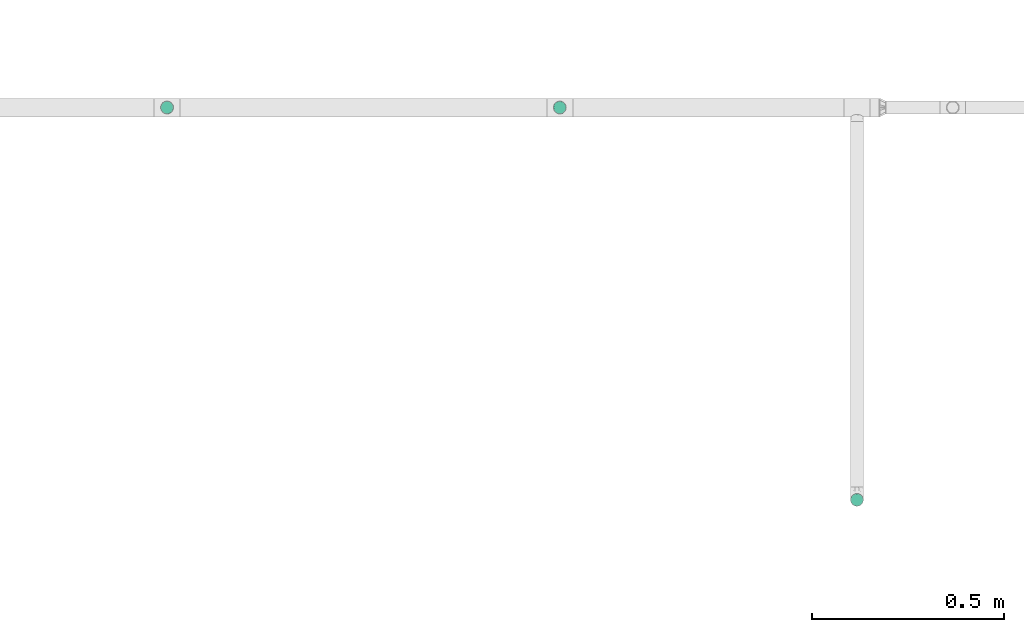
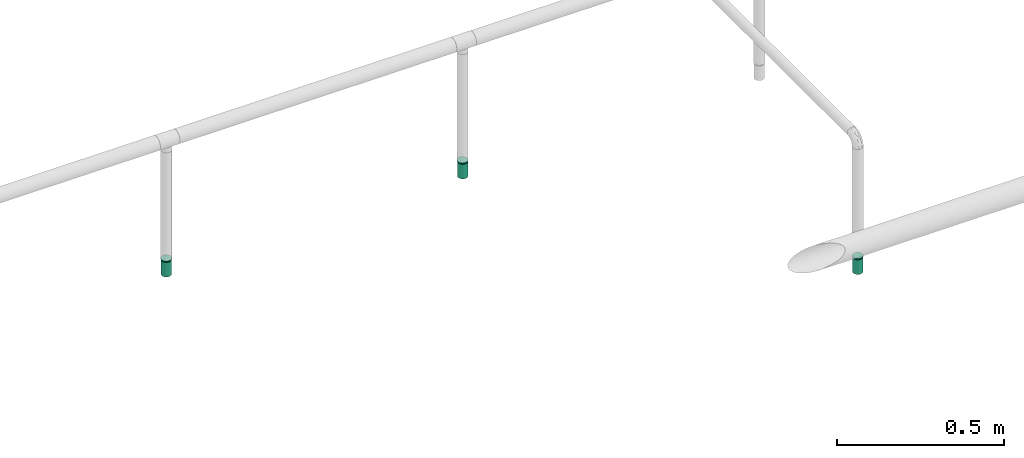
# One storey, part 17 of 45: 3 flow fittings, 3 flow terminals.
"""IFC2X3 building model written with IfcOpenShell, lengths in millimetres."""

from ifc_helpers import new_model, entity, si_unit, converted_unit, derived_unit, direction, frame, origin_with_axes, place, context, subcontext, project, spatial, open_shell, surface_model, source, transform, mapped, type_object, element, save


model = new_model("IFC2X3")

# Units and contexts
model_context = context("Model", 3, precision=0.01, world=frame((0.0, 4.29681676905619e-09, 0.0)), true_north=direction((4.01073788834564e-13, 1.0)))
plan_context = context("Plan", 3, precision=0.01, world=frame((0.0, 4.29681676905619e-09, 0.0)), true_north=direction((4.01073788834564e-13, 1.0)))
body_context = subcontext(model_context, "Body", "Model", "MODEL_VIEW")
ifc_project = project(units=[converted_unit("PLANEANGLEUNIT", "DEGREE", entity("IfcPositiveLengthMeasure", 0.0174532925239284), si_unit("PLANEANGLEUNIT", "RADIAN"), dimensions=[0, 0, 0, 0, 0, 0, 0]), si_unit("AREAUNIT", "SQUARE_METRE"), si_unit("LENGTHUNIT", "METRE", prefix="MILLI"), si_unit("MASSUNIT", "GRAM", prefix="KILO"), si_unit("POWERUNIT", "WATT"), si_unit("PRESSUREUNIT", "PASCAL", prefix="KILO"), si_unit("FORCEUNIT", "NEWTON", prefix="KILO"), si_unit("ELECTRICVOLTAGEUNIT", "VOLT"), si_unit("ELECTRICCURRENTUNIT", "AMPERE"), si_unit("THERMODYNAMICTEMPERATUREUNIT", "DEGREE_CELSIUS"), si_unit("TIMEUNIT", "SECOND"), si_unit("VOLUMEUNIT", "CUBIC_METRE"), derived_unit("LINEARVELOCITYUNIT", [(si_unit("LENGTHUNIT", "METRE"), 1), (si_unit("TIMEUNIT", "SECOND"), -1)]), derived_unit("VOLUMETRICFLOWRATEUNIT", [(si_unit("VOLUMEUNIT", "CUBIC_METRE"), 1), (si_unit("TIMEUNIT", "SECOND"), -1)]), derived_unit("THERMALTRANSMITTANCEUNIT", [(si_unit("POWERUNIT", "WATT"), 1), (si_unit("THERMODYNAMICTEMPERATUREUNIT", "KELVIN"), -1), (si_unit("AREAUNIT", "SQUARE_METRE"), -1)]), derived_unit("SOUNDPRESSUREUNIT", [(si_unit("PRESSUREUNIT", "PASCAL"), 1)])], contexts=[model_context, plan_context])

# Site, building, storey
site_placement = place(None, frame((0.0, -4.29681676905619e-09, 0.0), z_axis=(0.0, 0.0, 1.0), x_axis=(1.0, 0.0, 0.0)))
site = spatial("IfcSite", under=ifc_project, at=site_placement, CompositionType="ELEMENT")
building_placement = place(site_placement, frame((0.0, 4.29681676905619e-09, 0.0), z_axis=(0.0, 0.0, 1.0), x_axis=(1.0, 0.0, 0.0)))
building = spatial("IfcBuilding", under=site, at=building_placement, Name="mc-building", CompositionType="ELEMENT")
storey_placement = place(building_placement, frame((0.0, 0.0, 210200.0), z_axis=(0.0, 0.0, 1.0), x_axis=(1.0, 0.0, 0.0)))
storey = spatial("IfcBuildingStorey", under=building, at=storey_placement, Name="Nivå F - 0,7 m", CompositionType="ELEMENT", Elevation=210200.0)

# Flow fittings
pipe_fitting_type = type_object("IfcPipeFittingType", Name="magi_pipe_fe_reducer_centric_short_001", PredefinedType="TRANSITION")
shared_shape_1 = source(origin_with_axes(), body_context, "Body", "SurfaceModel", [
    surface_model("IfcShellBasedSurfaceModel", [(9.0, 4.37404, -16.32415), (9.0, 8.45, -14.63583), (9.0, 11.9501, -11.9501), (9.0, 0.0, -16.9), (9.0, 16.32415, -4.37404), (9.0, 16.32415, 4.37404), (9.0, 14.63583, -8.45), (9.0, -8.45, -14.63583), (9.0, -4.37404, -16.32415), (9.0, -11.9501, -11.9501), (9.0, -16.32415, -4.37404), (9.0, -14.63583, -8.45), (9.0, -16.32415, 4.37404), (9.0, 16.9, 0.0), (9.0, 14.63583, 8.45), (9.0, 11.9501, 11.9501), (9.0, 4.37404, 16.32415), (9.0, 0.0, 16.9), (9.0, 8.45, 14.63583), (9.0, -14.63583, 8.45), (9.0, -16.9, 0.0), (9.0, -8.45, 14.63583), (9.0, -11.9501, 11.9501), (9.0, -4.37404, 16.32415), (7.0, 4.37404, 16.32415), (7.0, -14.63583, 8.45), (7.0, 0.0, 16.9), (7.0, 16.32415, 4.37404), (7.0, 8.45, 14.63583), (7.0, 11.9501, 11.9501), (7.0, 14.63583, 8.45), (7.0, -8.45, 14.63583), (7.0, -11.9501, 11.9501), (7.0, -4.37404, 16.32415), (7.0, -16.32415, 4.37404), (7.0, -16.32415, -4.37404), (7.0, -16.9, 0.0), (7.0, -8.45, -14.63583), (7.0, 16.32415, -4.37404), (7.0, 11.9501, -11.9501), (7.0, 14.63583, -8.45), (7.0, 8.45, -14.63583), (7.0, 4.37404, -16.32415), (7.0, 0.0, -16.9), (7.0, -11.9501, -11.9501), (7.0, -14.63583, -8.45), (7.0, -4.37404, -16.32415), (7.0, 16.9, 0.0), (-2.0, -9.47523, 9.47523), (-2.0, 0.0, 13.4), (-2.0, 3.46818, 12.94341), (-2.0, 6.7, 11.60474), (-2.0, 9.47523, 9.47523), (-2.0, 11.60474, 6.7), (-2.0, 12.94341, 3.46818), (-2.0, -3.46818, 12.94341), (-2.0, -6.7, 11.60474), (-2.0, -12.94341, 3.46818), (-2.0, -11.60474, 6.7), (-2.0, -6.7, -11.60474), (-2.0, -12.94341, -3.46818), (-2.0, -13.4, 0.0), (-2.0, 12.94341, -3.46818), (-2.0, 6.7, -11.60474), (-2.0, 9.47523, -9.47523), (-2.0, 11.60474, -6.7), (-2.0, 3.46818, -12.94341), (-2.0, 0.0, -13.4), (-2.0, -9.47523, -9.47523), (-2.0, -11.60474, -6.7), (-2.0, -3.46818, -12.94341), (-2.0, 13.4, 0.0), (0.0, 12.94341, -3.46818), (0.0, 3.46818, -12.94341), (0.0, 6.7, -11.60474), (0.0, 11.60474, -6.7), (0.0, 9.47523, -9.47523), (0.0, -6.7, -11.60474), (0.0, -12.94341, 3.46818), (0.0, -3.46818, -12.94341), (0.0, 0.0, -13.4), (0.0, -9.47523, -9.47523), (0.0, -12.94341, -3.46818), (0.0, -11.60474, -6.7), (0.0, 13.4, 0.0), (0.0, 12.94341, 3.46818), (0.0, 11.60474, 6.7), (0.0, 9.47523, 9.47523), (0.0, 0.0, 13.4), (0.0, 6.7, 11.60474), (0.0, 3.46818, 12.94341), (0.0, -9.47523, 9.47523), (0.0, -11.60474, 6.7), (0.0, -13.4, 0.0), (0.0, -3.46818, 12.94341), (0.0, -6.7, 11.60474), (7.0, -14.51228, -5.76448), (0.0, -11.43761, -4.73762), (7.0, -13.23119, -8.85729), (0.0, -10.45642, -7.10642), (0.0, -12.41881, -2.36881), (7.0, -15.70614, -2.88224), (0.0, -2.36881, -12.41881), (7.0, -5.97505, -14.42505), (0.0, -7.10642, -10.45642), (0.0, -4.73762, -11.43761), (7.0, -2.98753, -15.66253), (7.0, -8.96258, -13.18758), (7.0, 2.98753, -15.66253), (0.0, 2.36881, -12.41881), (0.0, 12.45339, -2.28533), (7.0, 13.18758, -8.96258), (0.0, 10.45642, -7.10642), (7.0, 14.42505, -5.97505), (0.0, 11.43761, -4.73762), (0.0, 7.10642, -10.45642), (7.0, 8.96258, -13.18758), (7.0, 15.66253, -2.98753), (0.0, 4.73762, -11.43761), (7.0, 5.97505, -14.42505), (7.0, 14.51228, 5.76448), (0.0, 11.43761, 4.73762), (7.0, 13.23119, 8.85729), (0.0, 10.45642, 7.10642), (0.0, 12.41881, 2.36881), (7.0, 15.70614, 2.88224), (0.0, 2.36881, 12.41881), (7.0, 5.97505, 14.42505), (0.0, 7.10642, 10.45642), (0.0, 4.73762, 11.43761), (7.0, 2.98753, 15.66253), (7.0, 8.96258, 13.18758), (7.0, -2.98753, 15.66253), (0.0, -2.36881, 12.41881), (0.0, -12.45339, 2.28533), (7.0, -13.18758, 8.96258), (0.0, -10.45642, 7.10642), (7.0, -14.42505, 5.97505), (0.0, -11.43761, 4.73762), (0.0, -7.10642, 10.45642), (7.0, -8.96258, 13.18758), (7.0, -15.66253, 2.98753), (0.0, -4.73762, 11.43761), (7.0, -5.97505, 14.42505)], [open_shell([[[0, 1, 2]], [[3, 0, 2]], [[2, 4, 5]], [[4, 2, 6]], [[2, 5, 7]], [[3, 7, 8]], [[3, 2, 7]], [[9, 10, 11]], [[10, 9, 7]], [[7, 12, 10]], [[5, 4, 13]], [[5, 14, 15]], [[5, 15, 16]], [[16, 17, 5]], [[16, 15, 18]], [[5, 17, 19]], [[5, 19, 12]], [[20, 10, 12]], [[19, 21, 22]], [[19, 17, 21]], [[21, 17, 23]], [[12, 7, 5]], [[24, 25, 26]], [[27, 24, 28]], [[29, 30, 27]], [[29, 27, 28]], [[25, 24, 27]], [[31, 25, 32]], [[25, 31, 33]], [[26, 25, 33]], [[27, 34, 25]], [[34, 35, 36]], [[34, 27, 37]], [[27, 38, 39]], [[39, 38, 40]], [[39, 41, 42]], [[37, 27, 39]], [[42, 43, 39]], [[35, 44, 45]], [[44, 35, 37]], [[37, 43, 46]], [[35, 34, 37]], [[39, 43, 37]], [[38, 27, 47]], [[35, 10, 36]], [[45, 11, 35]], [[7, 44, 37]], [[45, 44, 9]], [[8, 37, 46]], [[35, 11, 10]], [[10, 20, 36]], [[8, 7, 37]], [[9, 44, 7]], [[9, 11, 45]], [[3, 8, 46]], [[46, 43, 3]], [[42, 0, 43]], [[41, 1, 42]], [[6, 39, 40]], [[41, 39, 2]], [[4, 40, 38]], [[41, 2, 1]], [[1, 0, 42]], [[13, 4, 38]], [[6, 40, 4]], [[6, 2, 39]], [[47, 13, 38]], [[43, 0, 3]], [[27, 5, 47]], [[30, 14, 27]], [[18, 29, 28]], [[30, 29, 15]], [[16, 28, 24]], [[27, 14, 5]], [[5, 13, 47]], [[16, 18, 28]], [[15, 29, 18]], [[15, 14, 30]], [[17, 16, 24]], [[24, 26, 17]], [[33, 23, 26]], [[31, 21, 33]], [[19, 32, 25]], [[31, 32, 22]], [[12, 25, 34]], [[31, 22, 21]], [[21, 23, 33]], [[20, 12, 34]], [[19, 25, 12]], [[19, 22, 32]], [[36, 20, 34]], [[26, 23, 17]], [[48, 49, 50]], [[51, 48, 50]], [[52, 53, 54]], [[52, 54, 51]], [[48, 51, 54]], [[55, 48, 56]], [[55, 49, 48]], [[48, 57, 58]], [[48, 59, 57]], [[57, 60, 61]], [[62, 48, 54]], [[48, 62, 63]], [[64, 62, 65]], [[66, 48, 63]], [[63, 62, 64]], [[66, 67, 48]], [[60, 68, 69]], [[60, 57, 68]], [[70, 59, 48]], [[57, 59, 68]], [[70, 48, 67]], [[71, 62, 54]], [[72, 73, 74]], [[75, 74, 76]], [[77, 73, 78]], [[72, 74, 75]], [[73, 72, 78]], [[73, 79, 80]], [[73, 77, 79]], [[81, 82, 83]], [[78, 82, 81]], [[81, 77, 78]], [[72, 84, 78]], [[85, 86, 87]], [[85, 87, 88]], [[89, 90, 88]], [[89, 88, 87]], [[85, 88, 91]], [[78, 91, 92]], [[93, 82, 78]], [[91, 94, 95]], [[91, 78, 85]], [[94, 91, 88]], [[78, 84, 85]], [[60, 82, 61]], [[69, 83, 60]], [[77, 68, 59]], [[69, 68, 81]], [[79, 59, 70]], [[60, 83, 82]], [[82, 93, 61]], [[79, 77, 59]], [[81, 68, 77]], [[81, 83, 69]], [[80, 79, 70]], [[70, 67, 80]], [[66, 73, 67]], [[63, 74, 66]], [[75, 64, 65]], [[63, 64, 76]], [[72, 65, 62]], [[63, 76, 74]], [[74, 73, 66]], [[84, 72, 62]], [[75, 65, 72]], [[75, 76, 64]], [[71, 84, 62]], [[67, 73, 80]], [[54, 85, 71]], [[53, 86, 54]], [[89, 52, 51]], [[53, 52, 87]], [[90, 51, 50]], [[54, 86, 85]], [[85, 84, 71]], [[90, 89, 51]], [[87, 52, 89]], [[87, 86, 53]], [[88, 90, 50]], [[50, 49, 88]], [[55, 94, 49]], [[56, 95, 55]], [[92, 48, 58]], [[56, 48, 91]], [[78, 58, 57]], [[56, 91, 95]], [[95, 94, 55]], [[93, 78, 57]], [[92, 58, 78]], [[92, 91, 48]], [[61, 93, 57]], [[49, 94, 88]], [[36, 29, 26]], [[39, 47, 29]], [[26, 32, 36]], [[36, 44, 43]], [[43, 39, 36]], [[36, 39, 29]], [[81, 91, 88]], [[81, 93, 91]], [[88, 87, 84]], [[84, 76, 81]], [[80, 81, 76]], [[84, 81, 88]], [[96, 97, 98]], [[81, 44, 99]], [[100, 96, 101]], [[102, 80, 43]], [[103, 104, 105]], [[102, 43, 106]], [[107, 81, 104]], [[108, 80, 109]], [[110, 84, 47]], [[93, 101, 36]], [[108, 43, 80]], [[111, 76, 112]], [[113, 112, 114]], [[115, 39, 116]], [[110, 47, 117]], [[99, 98, 97]], [[117, 113, 114]], [[106, 103, 105]], [[118, 116, 119]], [[109, 118, 119]], [[96, 100, 97]], [[93, 100, 101]], [[99, 44, 98]], [[104, 103, 107]], [[107, 44, 81]], [[106, 105, 102]], [[112, 113, 111]], [[111, 39, 76]], [[117, 114, 110]], [[116, 118, 115]], [[115, 76, 39]], [[109, 119, 108]], [[120, 121, 122]], [[87, 29, 123]], [[124, 120, 125]], [[126, 88, 26]], [[127, 128, 129]], [[126, 26, 130]], [[131, 87, 128]], [[132, 88, 133]], [[134, 93, 36]], [[84, 125, 47]], [[132, 26, 88]], [[135, 91, 136]], [[137, 136, 138]], [[139, 32, 140]], [[134, 36, 141]], [[123, 122, 121]], [[141, 137, 138]], [[130, 127, 129]], [[142, 140, 143]], [[133, 142, 143]], [[120, 124, 121]], [[84, 124, 125]], [[123, 29, 122]], [[128, 127, 131]], [[131, 29, 87]], [[130, 129, 126]], [[136, 137, 135]], [[135, 32, 91]], [[141, 138, 134]], [[140, 142, 139]], [[139, 91, 32]], [[133, 143, 132]]])]),
])
for number, where, z_axis, x_axis, name in (
    (1, (327539.0, 461628.40208, 2496.95199999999), (0.0, 1.0, 0.0), (0.0, 0.0, 1.0), "magi_pipe_fe_reducer_centric_short_001"),
    (2, (326514.0, 461628.40208, 2496.95199999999), (0.0, 1.0, 0.0), (0.0, 0.0, 1.0), "magi_pipe_fe_reducer_centric_short_001"),
):
    element("IfcFlowFitting", number, at=place(storey_placement, frame(where, z_axis=z_axis, x_axis=x_axis)), inside=storey, type_object=pipe_fitting_type, Name=name, context=body_context, shape_type="MappedRepresentation", body=[
        mapped(shared_shape_1, transform((0.0, 0.0, 0.0), scale=1.0)),
    ])
shared_shape_2 = source(origin_with_axes(), body_context, "Body", "SurfaceModel", [
    surface_model("IfcShellBasedSurfaceModel", [(9.0, 16.32415, 4.37404), (9.0, 16.32415, -4.37404), (9.0, 16.9, 0.0), (7.0, 11.9501, -11.9501), (7.0, 16.9, 0.0), (7.0, 11.9501, 11.9501), (7.0, 0.0, 16.9), (7.0, -11.9501, 11.9501), (7.0, -16.9, 0.0), (0.0, 0.0, 13.4), (0.0, 9.47523, 9.47523), (0.0, 13.4, 0.0), (9.0, -11.9501, -11.9501), (9.0, -8.45, -14.63583), (9.0, -4.37404, -16.32415), (9.0, 0.0, -16.9), (9.0, 8.45, -14.63583), (9.0, -16.32415, 4.37404), (9.0, -14.63583, -8.45), (9.0, -16.32415, -4.37404), (9.0, 4.37404, -16.32415), (9.0, 14.63583, -8.45), (9.0, 11.9501, -11.9501), (9.0, -16.9, 0.0), (9.0, -11.9501, 11.9501), (9.0, -14.63583, 8.45), (9.0, -4.37404, 16.32415), (9.0, 0.0, 16.9), (9.0, -8.45, 14.63583), (9.0, 14.63583, 8.45), (9.0, 11.9501, 11.9501), (9.0, 8.45, 14.63583), (9.0, 4.37404, 16.32415), (7.0, 14.63583, 8.45), (7.0, -4.37404, 16.32415), (7.0, -8.45, 14.63583), (7.0, -16.32415, 4.37404), (7.0, -14.63583, 8.45), (7.0, 8.45, 14.63583), (7.0, 4.37404, 16.32415), (7.0, 16.32415, 4.37404), (7.0, 16.32415, -4.37404), (7.0, 8.45, -14.63583), (7.0, -11.9501, -11.9501), (7.0, -16.32415, -4.37404), (7.0, -14.63583, -8.45), (7.0, -4.37404, -16.32415), (7.0, -8.45, -14.63583), (7.0, 14.63583, -8.45), (7.0, 4.37404, -16.32415), (7.0, 0.0, -16.9), (-2.0, -3.46818, 12.94341), (-2.0, 0.0, 13.4), (-2.0, 9.47523, 9.47523), (-2.0, -6.7, 11.60474), (-2.0, -12.94341, 3.46818), (-2.0, -11.60474, 6.7), (-2.0, -9.47523, 9.47523), (-2.0, 6.7, 11.60474), (-2.0, 3.46818, 12.94341), (-2.0, 11.60474, 6.7), (-2.0, 12.94341, 3.46818), (-2.0, 13.4, 0.0), (-2.0, 6.7, -11.60474), (-2.0, -13.4, 0.0), (-2.0, -12.94341, -3.46818), (-2.0, -6.7, -11.60474), (-2.0, -11.60474, -6.7), (-2.0, -9.47523, -9.47523), (-2.0, -3.46818, -12.94341), (-2.0, 11.60474, -6.7), (-2.0, 9.47523, -9.47523), (-2.0, 12.94341, -3.46818), (-2.0, 3.46818, -12.94341), (-2.0, 0.0, -13.4), (0.0, -6.7, -11.60474), (0.0, -3.46818, -12.94341), (0.0, -13.4, 0.0), (0.0, -9.47523, -9.47523), (0.0, -11.60474, -6.7), (0.0, -12.94341, -3.46818), (0.0, 6.7, -11.60474), (0.0, 0.0, -13.4), (0.0, 3.46818, -12.94341), (0.0, 11.60474, -6.7), (0.0, 12.94341, -3.46818), (0.0, 9.47523, -9.47523), (0.0, 12.94341, 3.46818), (0.0, -12.94341, 3.46818), (0.0, -9.47523, 9.47523), (0.0, -11.60474, 6.7), (0.0, -3.46818, 12.94341), (0.0, -6.7, 11.60474), (0.0, 11.60474, 6.7), (0.0, 6.7, 11.60474), (0.0, 3.46818, 12.94341), (7.0, 13.23119, -8.85729), (0.0, 11.43761, -4.73762), (7.0, 14.51228, -5.76448), (0.0, 10.45642, -7.10642), (7.0, 15.70614, -2.88224), (0.0, 12.41881, -2.36881), (0.0, 2.36881, -12.41881), (0.0, 4.73762, -11.43761), (0.0, 7.10642, -10.45642), (7.0, 5.97505, -14.42505), (7.0, 2.98753, -15.66253), (7.0, 8.96258, -13.18758), (0.0, -2.36881, -12.41881), (7.0, -2.98753, -15.66253), (0.0, -12.45339, -2.28533), (0.0, -10.45642, -7.10642), (7.0, -13.18758, -8.96258), (0.0, -11.43761, -4.73762), (7.0, -14.42505, -5.97505), (7.0, -8.96258, -13.18758), (0.0, -7.10642, -10.45642), (7.0, -15.66253, -2.98753), (7.0, -5.97505, -14.42505), (0.0, -4.73762, -11.43761), (7.0, -13.23119, 8.85729), (0.0, -11.43761, 4.73762), (7.0, -14.51228, 5.76448), (0.0, -10.45642, 7.10642), (7.0, -15.70614, 2.88224), (0.0, -12.41881, 2.36881), (0.0, -2.36881, 12.41881), (0.0, -4.73762, 11.43761), (0.0, -7.10642, 10.45642), (7.0, -5.97505, 14.42505), (7.0, -2.98753, 15.66253), (7.0, -8.96258, 13.18758), (0.0, 2.36881, 12.41881), (7.0, 2.98753, 15.66253), (0.0, 12.45339, 2.28533), (0.0, 10.45642, 7.10642), (7.0, 13.18758, 8.96258), (0.0, 11.43761, 4.73762), (7.0, 14.42505, 5.97505), (7.0, 8.96258, 13.18758), (0.0, 7.10642, 10.45642), (7.0, 15.66253, 2.98753), (7.0, 5.97505, 14.42505), (0.0, 4.73762, 11.43761)], [open_shell([[[0, 1, 2]], [[3, 4, 5]], [[6, 7, 8]], [[9, 10, 11]], [[12, 13, 14]], [[12, 14, 15]], [[16, 17, 12]], [[18, 12, 19]], [[12, 17, 19]], [[20, 16, 15]], [[16, 12, 15]], [[21, 1, 22]], [[16, 22, 1]], [[1, 0, 16]], [[17, 23, 19]], [[24, 25, 17]], [[26, 24, 17]], [[17, 27, 26]], [[28, 24, 26]], [[29, 27, 17]], [[0, 29, 17]], [[30, 31, 29]], [[31, 27, 29]], [[32, 27, 31]], [[17, 16, 0]], [[6, 33, 34]], [[35, 34, 36]], [[36, 37, 7]], [[35, 36, 7]], [[36, 34, 33]], [[5, 33, 38]], [[39, 38, 33]], [[39, 33, 6]], [[33, 40, 36]], [[4, 41, 40]], [[42, 36, 40]], [[43, 44, 36]], [[45, 44, 43]], [[46, 47, 43]], [[43, 36, 42]], [[43, 42, 46]], [[48, 3, 41]], [[42, 41, 3]], [[49, 50, 42]], [[42, 40, 41]], [[42, 50, 46]], [[8, 36, 44]], [[4, 1, 41]], [[41, 21, 48]], [[42, 3, 16]], [[22, 3, 48]], [[49, 42, 20]], [[1, 21, 41]], [[4, 2, 1]], [[42, 16, 20]], [[16, 3, 22]], [[48, 21, 22]], [[49, 20, 15]], [[15, 50, 49]], [[50, 14, 46]], [[46, 13, 47]], [[45, 43, 18]], [[12, 43, 47]], [[44, 45, 19]], [[13, 12, 47]], [[46, 14, 13]], [[44, 19, 23]], [[19, 45, 18]], [[43, 12, 18]], [[44, 23, 8]], [[15, 14, 50]], [[8, 17, 36]], [[36, 25, 37]], [[35, 7, 28]], [[24, 7, 37]], [[34, 35, 26]], [[17, 25, 36]], [[8, 23, 17]], [[35, 28, 26]], [[28, 7, 24]], [[37, 25, 24]], [[34, 26, 27]], [[27, 6, 34]], [[6, 32, 39]], [[39, 31, 38]], [[33, 5, 29]], [[30, 5, 38]], [[40, 33, 0]], [[31, 30, 38]], [[39, 32, 31]], [[40, 0, 2]], [[0, 33, 29]], [[5, 30, 29]], [[40, 2, 4]], [[27, 32, 6]], [[51, 52, 53]], [[51, 53, 54]], [[55, 56, 57]], [[54, 55, 57]], [[55, 54, 53]], [[58, 53, 59]], [[53, 52, 59]], [[60, 61, 53]], [[53, 61, 55]], [[62, 63, 61]], [[64, 55, 61]], [[65, 64, 66]], [[67, 65, 68]], [[64, 69, 66]], [[68, 65, 66]], [[63, 69, 64]], [[70, 71, 72]], [[71, 62, 72]], [[63, 73, 69]], [[71, 63, 62]], [[69, 73, 74]], [[64, 61, 63]], [[75, 76, 77]], [[78, 75, 79]], [[75, 77, 80]], [[79, 75, 80]], [[81, 77, 76]], [[82, 83, 76]], [[83, 81, 76]], [[84, 85, 86]], [[86, 85, 87]], [[87, 81, 86]], [[88, 77, 81]], [[89, 90, 88]], [[9, 89, 88]], [[9, 91, 92]], [[89, 9, 92]], [[10, 9, 88]], [[93, 10, 87]], [[87, 85, 11]], [[94, 95, 10]], [[10, 81, 87]], [[9, 10, 95]], [[10, 88, 81]], [[62, 85, 72]], [[72, 84, 70]], [[63, 71, 81]], [[86, 71, 70]], [[73, 63, 83]], [[85, 84, 72]], [[62, 11, 85]], [[63, 81, 83]], [[81, 71, 86]], [[70, 84, 86]], [[73, 83, 82]], [[82, 74, 73]], [[74, 76, 69]], [[69, 75, 66]], [[67, 68, 79]], [[78, 68, 66]], [[65, 67, 80]], [[75, 78, 66]], [[69, 76, 75]], [[65, 80, 77]], [[80, 67, 79]], [[68, 78, 79]], [[65, 77, 64]], [[82, 76, 74]], [[64, 88, 55]], [[55, 90, 56]], [[54, 57, 92]], [[89, 57, 56]], [[51, 54, 91]], [[88, 90, 55]], [[64, 77, 88]], [[54, 92, 91]], [[92, 57, 89]], [[56, 90, 89]], [[51, 91, 9]], [[9, 52, 51]], [[52, 95, 59]], [[59, 94, 58]], [[60, 53, 93]], [[10, 53, 58]], [[61, 60, 87]], [[94, 10, 58]], [[59, 95, 94]], [[61, 87, 11]], [[87, 60, 93]], [[53, 10, 93]], [[61, 11, 62]], [[9, 95, 52]], [[5, 6, 3]], [[43, 50, 3]], [[3, 8, 43]], [[6, 8, 3]], [[11, 89, 9]], [[77, 89, 78]], [[11, 82, 78]], [[82, 11, 86]], [[89, 11, 78]], [[96, 97, 98]], [[99, 3, 86]], [[100, 98, 101]], [[50, 82, 102]], [[103, 104, 105]], [[106, 50, 102]], [[104, 86, 107]], [[108, 82, 109]], [[8, 77, 110]], [[4, 100, 11]], [[82, 50, 109]], [[111, 78, 112]], [[113, 111, 114]], [[115, 43, 116]], [[117, 8, 110]], [[97, 96, 99]], [[113, 114, 117]], [[103, 105, 106]], [[118, 115, 119]], [[118, 119, 108]], [[97, 101, 98]], [[100, 101, 11]], [[96, 3, 99]], [[107, 105, 104]], [[86, 3, 107]], [[102, 103, 106]], [[112, 114, 111]], [[78, 43, 112]], [[110, 113, 117]], [[116, 119, 115]], [[43, 78, 116]], [[109, 118, 108]], [[120, 121, 122]], [[123, 7, 89]], [[124, 122, 125]], [[6, 9, 126]], [[127, 128, 129]], [[130, 6, 126]], [[128, 89, 131]], [[132, 9, 133]], [[4, 11, 134]], [[8, 124, 77]], [[9, 6, 133]], [[135, 10, 136]], [[137, 135, 138]], [[139, 5, 140]], [[141, 4, 134]], [[121, 120, 123]], [[137, 138, 141]], [[127, 129, 130]], [[142, 139, 143]], [[142, 143, 132]], [[121, 125, 122]], [[124, 125, 77]], [[120, 7, 123]], [[131, 129, 128]], [[89, 7, 131]], [[126, 127, 130]], [[136, 138, 135]], [[10, 5, 136]], [[134, 137, 141]], [[140, 143, 139]], [[5, 10, 140]], [[133, 142, 132]]])]),
])
flow_fitting_placement = place(storey_placement, frame((328314.5, 460604.5, 2496.95199999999), z_axis=(1.0, 0.0, 0.0), x_axis=(0.0, 0.0, 1.0)))
element("IfcFlowFitting", 3, at=flow_fitting_placement, inside=storey, type_object=pipe_fitting_type, Name="magi_pipe_fe_reducer_centric_short_001", context=body_context, shape_type="MappedRepresentation", body=[
    mapped(shared_shape_2, transform((0.0, 0.0, 0.0), scale=1.0)),
])

# Flow terminals
fire_suppression_terminal_type = type_object("IfcFireSuppressionTerminalType", Name="SP-15-K80-68DGR-STD-HIMLING", PredefinedType="NOTDEFINED")
shared_shape_3 = source(origin_with_axes(), body_context, "Body", "SurfaceModel", [
    surface_model("IfcShellBasedSurfaceModel", [(4.1411, -15.45481, 53.0), (8.0, -13.85641, 53.0), (11.31371, -11.31371, 53.0), (-8.0, -13.85641, 53.0), (15.45481, -4.1411, 53.0), (16.0, 0.0, 53.0), (13.85641, -8.0, 53.0), (0.0, -16.0, 53.0), (-4.1411, -15.45481, 53.0), (-13.85641, -8.0, 53.0), (-11.31371, -11.31371, 53.0), (-15.45481, -4.1411, 53.0), (15.45481, 4.1411, 53.0), (13.85641, 8.0, 53.0), (11.31371, 11.31371, 53.0), (-4.1411, 15.45481, 53.0), (8.0, 13.85641, 53.0), (4.1411, 15.45481, 53.0), (0.0, 16.0, 53.0), (-13.85641, 8.0, 53.0), (-15.45481, 4.1411, 53.0), (-16.0, 0.0, 53.0), (-11.31371, 11.31371, 53.0), (-8.0, 13.85641, 53.0), (0.0, 16.0, 0.0), (4.1411, 15.45481, 0.0), (8.0, 13.85641, 0.0), (-4.1411, 15.45481, 0.0), (11.31371, 11.31371, 0.0), (13.85641, 8.0, 0.0), (15.45481, 4.1411, 0.0), (-15.45481, -4.1411, 0.0), (-11.31371, 11.31371, 0.0), (-8.0, 13.85641, 0.0), (-13.85641, 8.0, 0.0), (-15.45481, 4.1411, 0.0), (-16.0, 0.0, 0.0), (4.1411, -15.45481, 0.0), (16.0, 0.0, 0.0), (15.45481, -4.1411, 0.0), (13.85641, -8.0, 0.0), (11.31371, -11.31371, 0.0), (8.0, -13.85641, 0.0), (-8.0, -13.85641, 0.0), (-13.85641, -8.0, 0.0), (-11.31371, -11.31371, 0.0), (0.0, -16.0, 0.0), (-4.1411, -15.45481, 0.0)], [open_shell([[[0, 1, 2]], [[3, 0, 2]], [[4, 5, 2]], [[4, 2, 6]], [[3, 2, 5]], [[7, 3, 8]], [[7, 0, 3]], [[3, 9, 10]], [[9, 3, 11]], [[5, 11, 3]], [[5, 12, 11]], [[12, 13, 14]], [[15, 12, 14]], [[16, 17, 18]], [[14, 16, 15]], [[18, 15, 16]], [[11, 19, 20]], [[21, 11, 20]], [[22, 15, 23]], [[15, 22, 19]], [[19, 11, 15]], [[11, 12, 15]], [[24, 25, 26]], [[27, 24, 26]], [[28, 29, 30]], [[27, 26, 28]], [[27, 28, 31]], [[27, 32, 33]], [[32, 27, 34]], [[34, 31, 35]], [[31, 34, 27]], [[35, 31, 36]], [[28, 30, 31]], [[37, 38, 39]], [[37, 39, 40]], [[41, 42, 37]], [[41, 37, 40]], [[38, 37, 43]], [[44, 43, 45]], [[43, 44, 31]], [[43, 46, 47]], [[43, 31, 38]], [[37, 46, 43]], [[38, 31, 30]], [[11, 31, 44]], [[45, 9, 44]], [[3, 43, 47]], [[45, 43, 10]], [[8, 47, 46]], [[31, 21, 36]], [[31, 11, 21]], [[44, 9, 11]], [[45, 10, 9]], [[3, 10, 43]], [[47, 8, 3]], [[46, 7, 8]], [[0, 37, 42]], [[41, 1, 42]], [[6, 40, 39]], [[41, 40, 2]], [[4, 39, 38]], [[37, 0, 7]], [[42, 1, 0]], [[41, 2, 1]], [[40, 6, 2]], [[4, 6, 39]], [[38, 5, 4]], [[37, 7, 46]], [[12, 38, 30]], [[13, 30, 29]], [[16, 26, 25]], [[17, 25, 24]], [[30, 13, 12]], [[12, 5, 38]], [[28, 14, 13]], [[28, 26, 14]], [[14, 26, 16]], [[25, 17, 16]], [[28, 13, 29]], [[24, 18, 17]], [[15, 27, 33]], [[32, 23, 33]], [[19, 34, 35]], [[32, 34, 22]], [[20, 35, 36]], [[27, 15, 18]], [[33, 23, 15]], [[32, 22, 23]], [[34, 19, 22]], [[20, 19, 35]], [[36, 21, 20]], [[27, 18, 24]]])]),
])
for number, where, z_axis, x_axis in (
    (4, (327539.0, 461628.40208, 2500.0), (0.0, 0.0, -1.0), (-1.0, 0.0, 0.0)),
    (5, (326514.0, 461628.40208, 2500.0), (0.0, 0.0, -1.0), (-1.0, 0.0, 0.0)),
    (6, (328314.5, 460604.5, 2500.0), (0.0, 0.0, -1.0), (-1.0, 0.0, 0.0)),
):
    element("IfcFlowTerminal", number, at=place(storey_placement, frame(where, z_axis=z_axis, x_axis=x_axis)), inside=storey, type_object=fire_suppression_terminal_type, Name="SP-15-K80-68DGR-STD-HIMLING", context=body_context, shape_type="MappedRepresentation", body=[
        mapped(shared_shape_3, transform((0.0, 0.0, 0.0), scale=1.0)),
    ])

save(model, "model.ifc")
